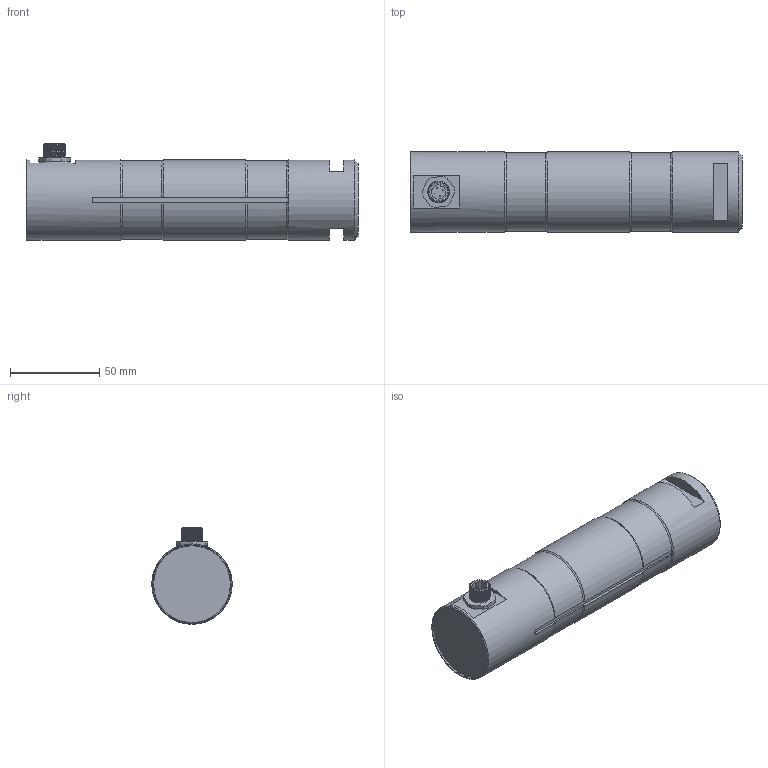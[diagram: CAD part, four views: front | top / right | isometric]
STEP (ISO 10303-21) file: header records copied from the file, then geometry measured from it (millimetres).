
FILE_DESCRIPTION(/* description */ ('Alibre Inc.'),/* implementation_level */ '2;1');
FILE_NAME(/* name */ 'export1',/* time_stamp */ '2014-08-18T11:29:55+02:00',/* author */ (''),/* organization */ (''),/* preprocessor_version */ 'ST-DEVELOPER v14',/* originating_system */ 'Alibre',/* authorisation */ '');
FILE_SCHEMA (('CONFIG_CONTROL_DESIGN'));
Length unit declared in the file: centimetre
Products named in the file (6): ID_1; ID_2; ID_3
Bounding box: 186 x 45 x 54.12 mm (x, y, z)
Volume: 286497.3 mm3; surface area: 34500.9 mm2
Topology: 8 solids, 8 shells, 154 faces, 345 edges, 215 vertices
Faces by surface type: plane 64, cylinder 52, bspline 23, torus 9, cone 6
Full cylindrical faces by diameter (mm): 0.5 x8, 8 x2, 10 x4, 11.5 x1, 13 x1, 14.376 x1, 43 x1, 45 x2
Entity records: 14699 total; most frequent: CARTESIAN_POINT 11372, ORIENTED_EDGE 618, DIRECTION 400, EDGE_CURVE 304, VERTEX_POINT 203, FACE_BOUND 198, EDGE_LOOP 197, AXIS2_PLACEMENT_3D 179
